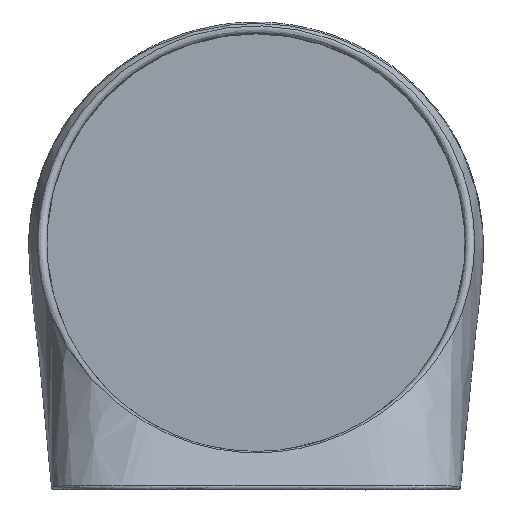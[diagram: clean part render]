
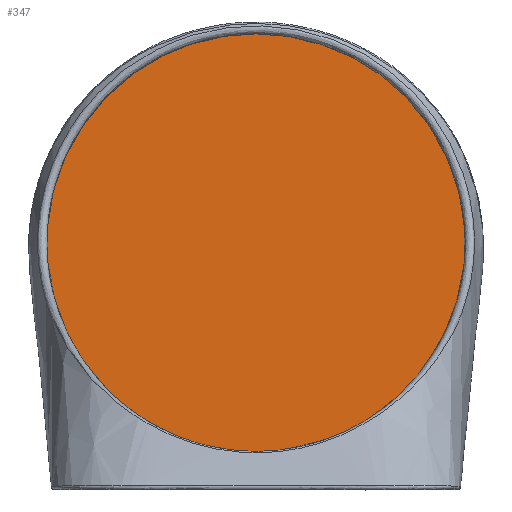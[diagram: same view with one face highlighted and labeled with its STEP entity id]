
A CAD part, top view. The second image highlights one B-rep face of the part: STEP entity #347.
In plain terms, the highlighted planar face has unit normal (0, 0, 1).
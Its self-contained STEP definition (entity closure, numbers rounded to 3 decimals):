
#27=PLANE('',#375);
#52=FACE_OUTER_BOUND('',#71,.T.);
#71=EDGE_LOOP('',(#313,#314));
#118=CIRCLE('',#368,44.);
#120=CIRCLE('',#374,44.);
#157=VERTEX_POINT('',#1524);
#158=VERTEX_POINT('',#1525);
#203=EDGE_CURVE('',#157,#158,#118,.T.);
#217=EDGE_CURVE('',#157,#158,#120,.T.);
#313=ORIENTED_EDGE('',*,*,#203,.F.);
#314=ORIENTED_EDGE('',*,*,#217,.T.);
#347=ADVANCED_FACE('',(#52),#27,.T.);
#368=AXIS2_PLACEMENT_3D('',#1526,#392,#393);
#374=AXIS2_PLACEMENT_3D('',#2237,#407,#408);
#375=AXIS2_PLACEMENT_3D('',#2238,#409,#410);
#392=DIRECTION('center_axis',(0.,0.,-1.));
#393=DIRECTION('ref_axis',(1.,0.,0.));
#407=DIRECTION('center_axis',(0.,0.,1.));
#408=DIRECTION('ref_axis',(1.,0.,0.));
#409=DIRECTION('center_axis',(0.,0.,1.));
#410=DIRECTION('ref_axis',(1.,0.,0.));
#1524=CARTESIAN_POINT('',(69.104,87.42,2.2));
#1525=CARTESIAN_POINT('',(17.209,87.648,2.2));
#1526=CARTESIAN_POINT('Origin',(43.,52.,2.2));
#2237=CARTESIAN_POINT('Origin',(43.,52.,2.2));
#2238=CARTESIAN_POINT('Origin',(43.,52.,2.2));
